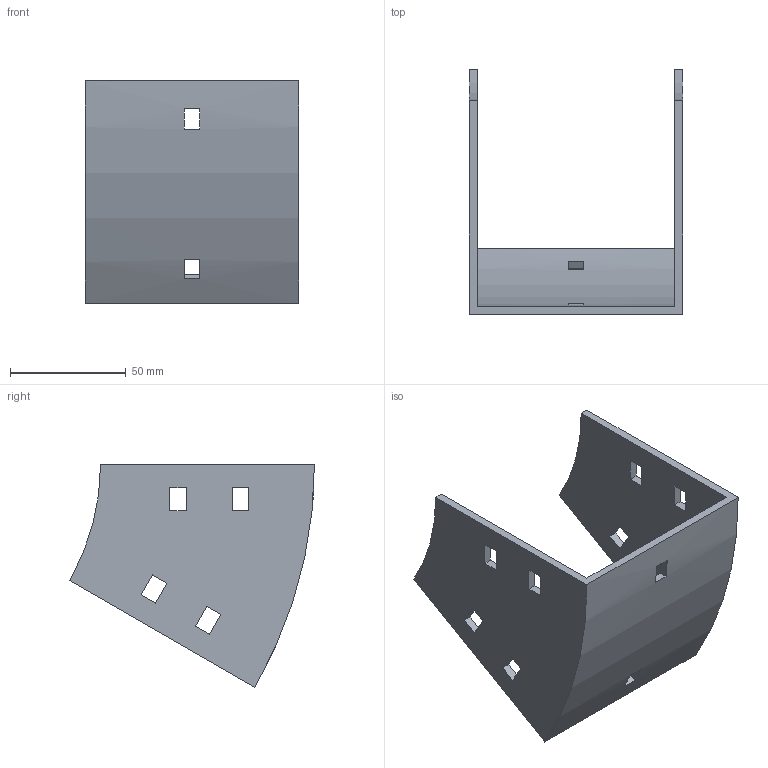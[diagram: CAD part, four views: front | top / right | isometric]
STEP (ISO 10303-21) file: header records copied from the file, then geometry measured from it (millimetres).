
FILE_DESCRIPTION (( 'STEP AP214' ), '1' );
FILE_NAME ('32B1I092.step', '2025-02-21T09:45:03', ( '' ), ( '' ), 'SwSTEP 2.0', 'SolidWorks 2023', '' );
FILE_SCHEMA (( 'AUTOMOTIVE_DESIGN' ));
Length unit declared in the file: millimetre
Products named in the file (1): 32B1I092
Bounding box: 92.5 x 105.9 x 96.25 mm (x, y, z)
Volume: 77100.1 mm3; surface area: 47493.5 mm2
Topology: 1 solids, 1 shells, 50 faces, 144 edges, 96 vertices
Faces by surface type: plane 46, cylinder 4
Entity records: 1687 total; most frequent: CARTESIAN_POINT 291, ORIENTED_EDGE 288, DIRECTION 262, EDGE_CURVE 144, LINE 128, VECTOR 128, VERTEX_POINT 96, EDGE_LOOP 70
